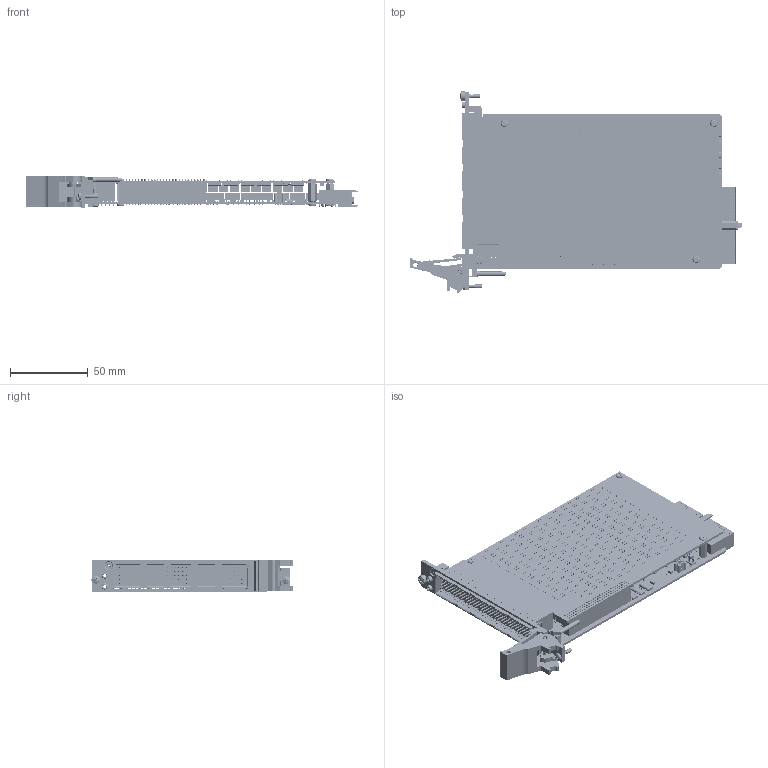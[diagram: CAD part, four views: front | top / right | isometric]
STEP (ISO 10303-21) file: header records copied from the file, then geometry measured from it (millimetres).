
FILE_DESCRIPTION (( 'STEP AP214' ), '1' );
FILE_NAME ('40-575-001 Efficient Matrix 84x4.STEP', '2013-09-02T09:23:32', ( 'admin' ), ( '' ), 'SwSTEP 2.0', 'SolidWorks 2012', '' );
FILE_SCHEMA (( 'AUTOMOTIVE_DESIGN' ));
Length unit declared in the file: millimetre
Products named in the file (1): 40-575-001 Efficient Matrix 84x4
Bounding box: 214.03 x 129.67 x 20 mm (x, y, z)
Surface area: 114671.9 mm2 (no closed solid volume)
Topology: 0 solids, 4679 shells, 13099 faces, 48521 edges, 38021 vertices
Faces by surface type: plane 8106, cylinder 4369, sphere 531, cone 48, torus 30, bspline 15
Full cylindrical faces by diameter (mm): 0.4 x2013, 0.5 x79, 0.6 x110, 0.65 x2, 0.656 x5, 0.75 x2, 0.8 x90, 1.496 x2, 2 x6, 2.05 x3, 2.5 x4, 2.52 x1, 2.7 x1, 2.8 x1, 3 x3, 4 x2, 4.1 x1, 4.594 x1, 4.603 x1, 4.7 x1, 4.85 x6, 5 x6, 5.3 x1, 6 x1
Entity records: 638775 total; most frequent: CARTESIAN_POINT 104988, DIRECTION 81502, ORIENTED_EDGE 58318, EDGE_CURVE 45486, VERTEX_POINT 37893, VECTOR 33058, LINE 33058, AXIS2_PLACEMENT_3D 24222
